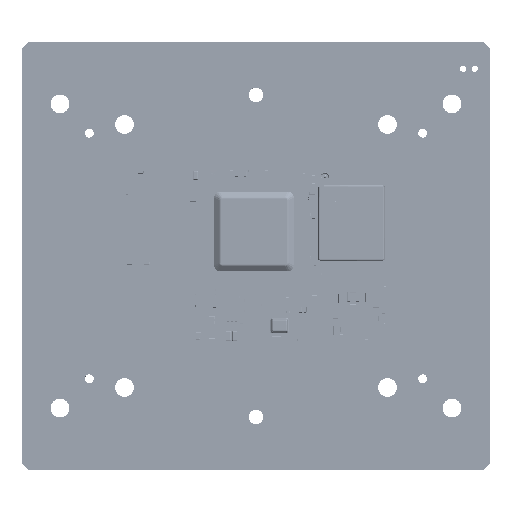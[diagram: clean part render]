
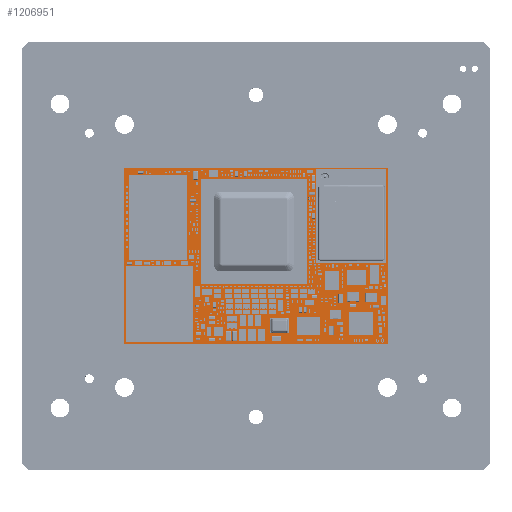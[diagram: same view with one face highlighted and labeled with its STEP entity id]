
A CAD part, top view. The second image highlights one B-rep face of the part: STEP entity #1206951.
In plain terms, the highlighted planar face has unit normal (0, 0, 1).
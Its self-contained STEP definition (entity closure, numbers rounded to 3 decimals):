
#26950 = VECTOR ( 'NONE', #335949, 1000. ) ;
#85030 = CARTESIAN_POINT ( 'NONE',  ( 62.5, 21.5, 1.265 ) ) ;
#85377 = PLANE ( 'NONE',  #482597 ) ;
#97612 = ORIENTED_EDGE ( 'NONE', *, *, #1143893, .T. ) ;
#225790 = DIRECTION ( 'NONE',  ( 1., 0., 0. ) ) ;
#278501 = EDGE_LOOP ( 'NONE', ( #1315965, #97612, #330996, #458987 ) ) ;
#291048 = DIRECTION ( 'NONE',  ( 0., 1., 0. ) ) ;
#305420 = DIRECTION ( 'NONE',  ( 0., 0., 1. ) ) ;
#323254 = CARTESIAN_POINT ( 'NONE',  ( 62.5, 21.5, 1.265 ) ) ;
#330996 = ORIENTED_EDGE ( 'NONE', *, *, #1363385, .T. ) ;
#335949 = DIRECTION ( 'NONE',  ( -1., 0., 0. ) ) ;
#453244 = CARTESIAN_POINT ( 'NONE',  ( 17.5, 51.5, 1.265 ) ) ;
#458987 = ORIENTED_EDGE ( 'NONE', *, *, #739776, .T. ) ;
#482597 = AXIS2_PLACEMENT_3D ( 'NONE', #923509, #305420, #1278033 ) ;
#534870 = LINE ( 'NONE', #1301597, #26950 ) ;
#545199 = LINE ( 'NONE', #765348, #598578 ) ;
#570608 = VERTEX_POINT ( 'NONE', #323254 ) ;
#598578 = VECTOR ( 'NONE', #225790, 1000. ) ;
#717382 = FACE_OUTER_BOUND ( 'NONE', #278501, .T. ) ;
#739776 = EDGE_CURVE ( 'NONE', #834068, #821836, #772887, .T. ) ;
#753040 = CARTESIAN_POINT ( 'NONE',  ( 17.5, 21.5, 1.265 ) ) ;
#765348 = CARTESIAN_POINT ( 'NONE',  ( 17.5, 21.5, 1.265 ) ) ;
#772887 = LINE ( 'NONE', #453244, #1340380 ) ;
#775281 = VECTOR ( 'NONE', #291048, 1000. ) ;
#795695 = VERTEX_POINT ( 'NONE', #909724 ) ;
#821836 = VERTEX_POINT ( 'NONE', #753040 ) ;
#834068 = VERTEX_POINT ( 'NONE', #946189 ) ;
#909724 = CARTESIAN_POINT ( 'NONE',  ( 62.5, 51.5, 1.265 ) ) ;
#923509 = CARTESIAN_POINT ( 'NONE',  ( 40., 36.5, 1.265 ) ) ;
#946189 = CARTESIAN_POINT ( 'NONE',  ( 17.5, 51.5, 1.265 ) ) ;
#1013862 = DIRECTION ( 'NONE',  ( 0., -1., 0. ) ) ;
#1050599 = LINE ( 'NONE', #85030, #775281 ) ;
#1143893 = EDGE_CURVE ( 'NONE', #570608, #795695, #1050599, .T. ) ;
#1206951 = ADVANCED_FACE ( 'NONE', ( #717382 ), #85377, .T. ) ;
#1278033 = DIRECTION ( 'NONE',  ( 1., 0., 0. ) ) ;
#1301597 = CARTESIAN_POINT ( 'NONE',  ( 62.5, 51.5, 1.265 ) ) ;
#1315965 = ORIENTED_EDGE ( 'NONE', *, *, #1396306, .T. ) ;
#1340380 = VECTOR ( 'NONE', #1013862, 1000. ) ;
#1363385 = EDGE_CURVE ( 'NONE', #795695, #834068, #534870, .T. ) ;
#1396306 = EDGE_CURVE ( 'NONE', #821836, #570608, #545199, .T. ) ;
